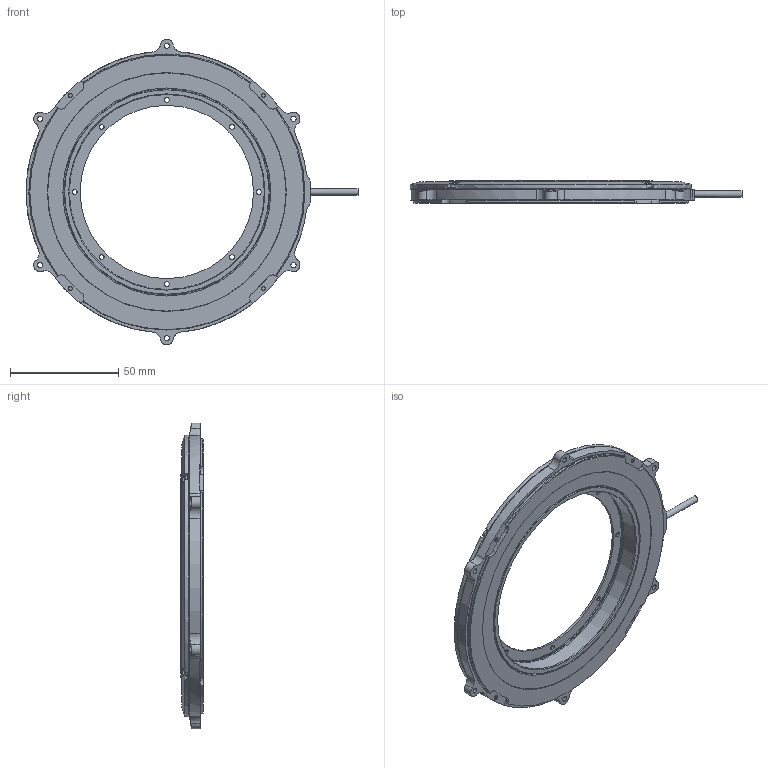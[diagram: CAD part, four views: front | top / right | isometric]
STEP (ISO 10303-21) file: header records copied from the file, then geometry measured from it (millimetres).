
FILE_DESCRIPTION(/* description */ (''),/* implementation_level */ '2;1');
FILE_NAME(/* name */ 'C:\Users\DonatasG\OneDrive - UAB Precizika Metrology\Documents\PRODUCTS\CUSTOM ENCODERS\WESENSE Motion\HPO-130K\DRAWINGS\HPO-130K_REV.00.stp',/* time_stamp */ '2024-02-19T13:14:39+02:00',/* author */ ('DonatasG'),/* organization */ (''),/* preprocessor_version */ 'ST-DEVELOPER v19',/* originating_system */ 'Autodesk Inventor 2023',/* authorisation */ '');
FILE_SCHEMA (('AUTOMOTIVE_DESIGN { 1 0 10303 214 3 1 1 }'));
Length unit declared in the file: millimetre
Products named in the file (10): HPO-130K.00.00 SB; HPO-130K.01.00; HPO-130K.01.01; PRELIMINAR_PCB_REV.00; GSC-01-86415-00; HPO-130K.01.00_1; HPO-130K.02.01; HPO-130K.02.02_REV.00 (GLASS DISC); HPO-130K.00.01; DIN 7985 (H) - M2x5-H
Assembly tree (12 placements, depth 3):
  HPO-130K.00.00 SB
    HPO-130K.01.00
      HPO-130K.01.01
      PRELIMINAR_PCB_REV.00
      GSC-01-86415-00
    HPO-130K.01.00_1
      HPO-130K.02.01
      HPO-130K.02.02_REV.00 (GLASS DISC)
    HPO-130K.00.01
    DIN 7985 (H) - M2x5-H  x4
Bounding box: 153.23 x 10.5 x 141 mm (x, y, z)
Volume: 49338.1 mm3; surface area: 59219 mm2
Topology: 10 solids, 10 shells, 413 faces, 1095 edges, 727 vertices
Faces by surface type: plane 183, cylinder 124, cone 88, torus 13, sphere 4, bspline 1
Full cylindrical faces by diameter (mm): 1.8 x4, 1.941 x4, 2 x4, 2.1 x1, 2.2 x8, 2.3 x4, 2.4 x12, 3 x1, 3.1 x1, 4 x6, 4.6 x6, 80 x1, 90 x1, 90.6 x1, 94.4 x1, 95 x1, 96 x2, 97 x1, 99 x1, 102 x1, 103 x1, 105.5 x1, 110.5 x1, 112 x1, 114 x1, 116 x1, 118 x1, 120 x2, 122 x1, 130 x1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
Entity records: 10616 total; most frequent: CARTESIAN_POINT 2496, DIRECTION 1689, ORIENTED_EDGE 1566, EDGE_CURVE 783, AXIS2_PLACEMENT_3D 676, VERTEX_POINT 520, EDGE_LOOP 393, CIRCLE 351
